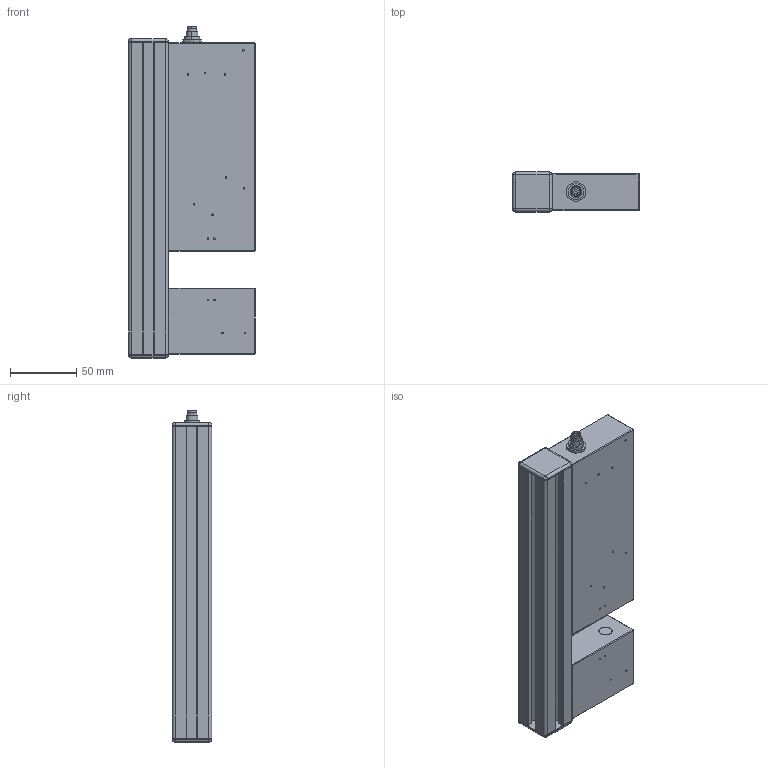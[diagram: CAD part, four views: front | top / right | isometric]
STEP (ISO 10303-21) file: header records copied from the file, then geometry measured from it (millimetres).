
FILE_DESCRIPTION (( 'STEP AP203' ), '1' );
FILE_NAME ('ÐÔ 656-5.STEP', '2013-07-18T07:24:00', ( 'DNA7 X86' ), ( 'DNA Project' ), 'SwSTEP 2.0', 'SolidWorks 2012', '' );
FILE_SCHEMA (( 'CONFIG_CONTROL_DESIGN' ));
Length unit declared in the file: millimetre
Products named in the file (12): 俶 656-5; Ãàéêà Raz_09_0427_80_08; Âèíò_Ì2õ4; Okno_M; ÐÔ 656.05.003-01 Êðûøêà ïðèåìíèêà; ÐÔ 656.05.004-01 Êðûøêà èçëó÷àòåëÿ; Âèíò_Ì5õ15; Çàãëóøêà 30õ30; Ïðîôèëü 30x30 656-05 âåðñèÿ 2; ÐÔ 656.05.002-01 Êîðïóñ èçëó÷àòåëÿ 05; ÐÔ 656.05.001-01 Êîðïóñ ïðèåìíèêà 05; Raz_09_0427_80_08
Assembly tree (25 placements, depth 2):
  俶 656-5
    Raz_09_0427_80_08
    ÐÔ 656.05.001-01 Êîðïóñ ïðèåìíèêà 05
    ÐÔ 656.05.002-01 Êîðïóñ èçëó÷àòåëÿ 05
    Ïðîôèëü 30x30 656-05 âåðñèÿ 2
    Çàãëóøêà 30õ30  x2
    Âèíò_Ì5õ15  x4
    ÐÔ 656.05.004-01 Êðûøêà èçëó÷àòåëÿ
    ÐÔ 656.05.003-01 Êðûøêà ïðèåìíèêà
    Okno_M  x2
    Âèíò_Ì2õ4  x10
    Ãàéêà Raz_09_0427_80_08
Bounding box: 96 x 30 x 251.5 mm (x, y, z)
Volume: 195050.6 mm3; surface area: 188958.4 mm2
Topology: 25 solids, 25 shells, 1029 faces, 2578 edges, 1624 vertices
Faces by surface type: plane 538, cylinder 311, cone 156, torus 24
Entity records: 23210 total; most frequent: CARTESIAN_POINT 3998, DIRECTION 3794, ORIENTED_EDGE 3568, EDGE_CURVE 1784, AXIS2_PLACEMENT_3D 1334, VERTEX_POINT 1136, VECTOR 1126, LINE 1126
